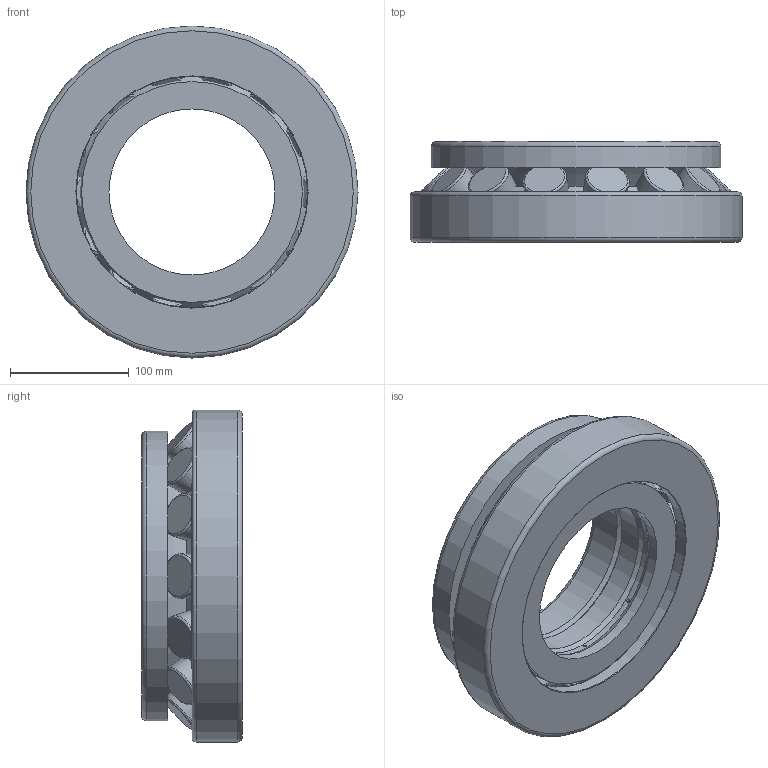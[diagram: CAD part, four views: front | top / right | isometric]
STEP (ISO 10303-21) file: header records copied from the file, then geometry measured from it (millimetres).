
FILE_DESCRIPTION(/* description */ (''),/* implementation_level */ '2;1');
FILE_NAME(/* name */ 'C:\Users\OUREHANEKD\Desktop\Ložiská\MODELY\ASL\294MC\292--\29428MC.stp',/* time_stamp */ '2016-09-22T13:52:58+02:00',/* author */ ('OUREHANEKD'),/* organization */ (''),/* preprocessor_version */ 'ST-DEVELOPER v15.6',/* originating_system */ 'Autodesk Inventor 2015',/* authorisation */ '');
FILE_SCHEMA (('AUTOMOTIVE_DESIGN { 1 0 10303 214 3 1 1 }'));
Length unit declared in the file: millimetre
Products named in the file (6): 29428MC-01; 29428MC-02; 29428MC-kl; 29428MC-kr; 29428MC-roller; 29428MC
Assembly tree (18 placements, depth 2):
  29428MC
    29428MC-01
    29428MC-02
    29428MC-kl
    29428MC-kr
    29428MC-roller  x14
Bounding box: 280 x 85 x 280 mm (x, y, z)
Volume: 2949390.8 mm3; surface area: 448155.4 mm2
Topology: 18 solids, 18 shells, 116 faces, 225 edges, 144 vertices
Faces by surface type: plane 37, torus 35, cylinder 21, bspline 15, cone 8
Full cylindrical faces by diameter (mm): 2.635 x8, 140 x3, 144.42 x1, 146.8 x2, 157.201 x3, 186.16 x1, 195 x1, 244.5 x1, 280 x1
Entity records: 1967 total; most frequent: CARTESIAN_POINT 785, DIRECTION 238, ORIENTED_EDGE 128, AXIS2_PLACEMENT_3D 119, EDGE_LOOP 114, EDGE_CURVE 64, FACE_BOUND 63, VERTEX_POINT 62
